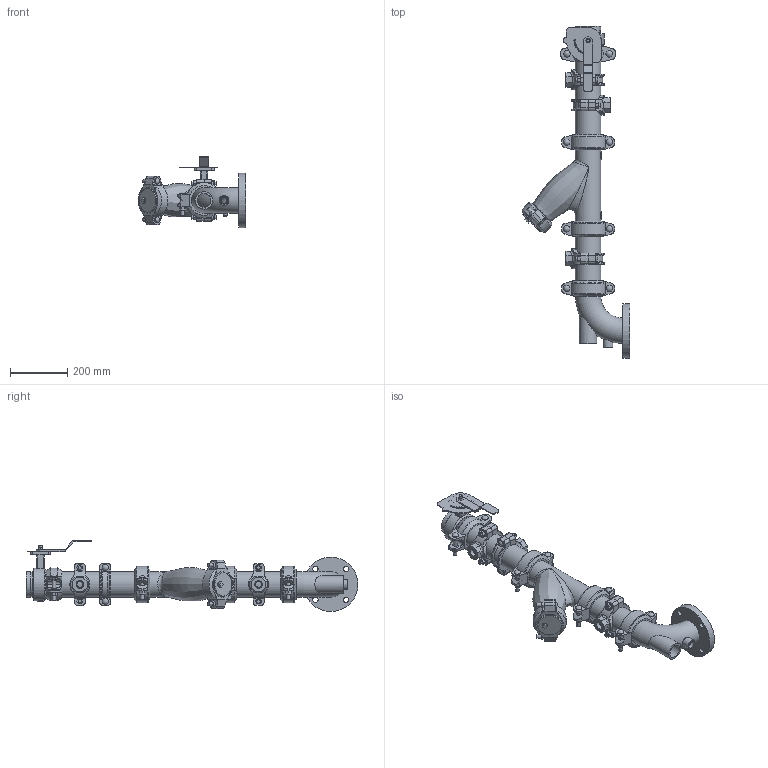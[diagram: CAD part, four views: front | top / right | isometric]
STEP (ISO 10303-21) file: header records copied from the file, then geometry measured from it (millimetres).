
FILE_DESCRIPTION(/* description */ ('VIC SVI PUMP DROP HORZ S/382 (OGSxFLG)','CAx-IF Rec.Pracs.---Representation and Presentation of Product Manufacturing Information (PMI)---4.0---2014-10-13'),/* implementation_level */ '2;1');
FILE_NAME(/* name */ 'C:\Users\Vjadhav\AppData\Roaming\Autodesk\ApplicationPlugins\Victaulic.Temp\A562\Victaulic_IPS_Horizontal SVI_CL 150_Series 382 (OGSxFLG)_03.0x03.0 (80x80).stp',/* time_stamp */ '2022-02-28T19:57:01+05:00',/* author */ ('kkamble'),/* organization */ ('Victaulic'),/* preprocessor_version */ 'ST-DEVELOPER v17.2',/* originating_system */ 'Autodesk Inventor 2019',/* authorisation */ '');
FILE_SCHEMA (('AP242_MANAGED_MODEL_BASED_3D_ENGINEERING_MIM_LF { 1 0 10303 442 1 1 4 }'));
Length unit declared in the file: inch
Products named in the file (14): 382-03.0x03.0; PIPE-03.0; 107N-03.0; 732-03.0; 732-03.0_1; 07-03.0; 732-03.0_2; PIPE-03.3; 920NT-03.0x0.75; 920N LOWER HSG-03.0; 920NT-03.0x0.75_1; 761-03.0; 177N-03.0; 100F-03.0
Assembly tree (17 placements, depth 3):
  382-03.0x03.0
    PIPE-03.0
    107N-03.0
    732-03.0
      732-03.0_1
      07-03.0
      732-03.0_2
    177N-03.0  x3
    PIPE-03.3
    920NT-03.0x0.75  x3
      920N LOWER HSG-03.0
      920NT-03.0x0.75_1
    761-03.0
    100F-03.0
Bounding box: 376.53 x 1162.05 x 249.43 mm (x, y, z)
Volume: 5769814 mm3; surface area: 1417384.4 mm2
Topology: 17 solids, 20 shells, 1019 faces, 2692 edges, 1801 vertices
Faces by surface type: plane 544, cylinder 355, torus 47, bspline 36, cone 21, sphere 16
Full cylindrical faces by diameter (mm): 4.826 x10, 8.636 x4, 10.922 x2, 12.7 x26, 19.05 x5, 20.93 x4, 21.982 x6, 22.225 x10, 22.86 x1, 25.4 x2, 26.67 x2, 26.924 x3, 34.29 x1, 48.26 x1, 55.118 x1, 60.96 x1, 70.104 x1, 74.524 x1, 74.676 x1, 76.2 x4, 77.927 x5, 82.55 x1, 84.938 x11, 88.9 x26, 114.3 x1, 190.5 x1
Entity records: 23943 total; most frequent: CARTESIAN_POINT 7080, DIRECTION 3386, ORIENTED_EDGE 3224, EDGE_CURVE 1612, AXIS2_PLACEMENT_3D 1279, VERTEX_POINT 1083, LINE 828, VECTOR 828
